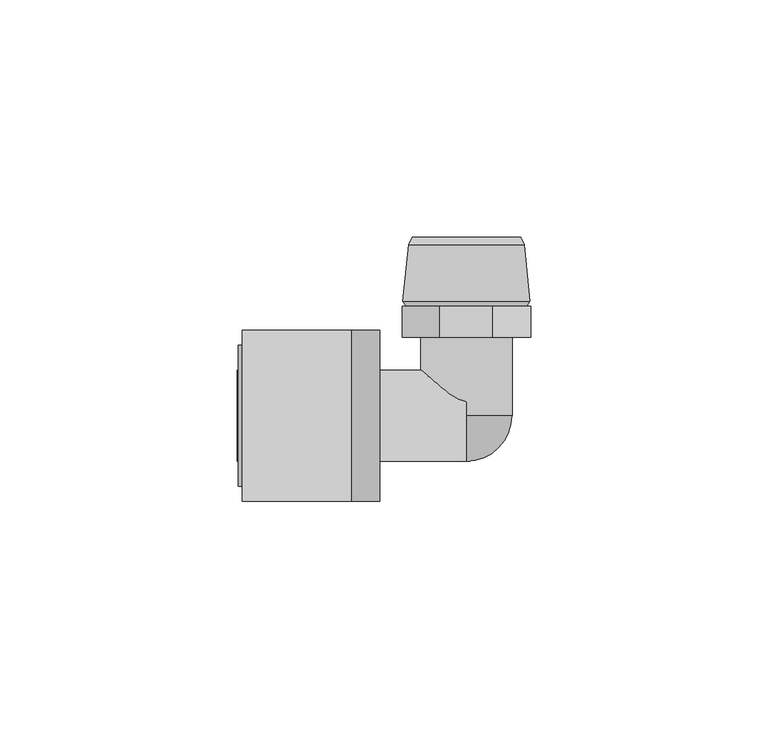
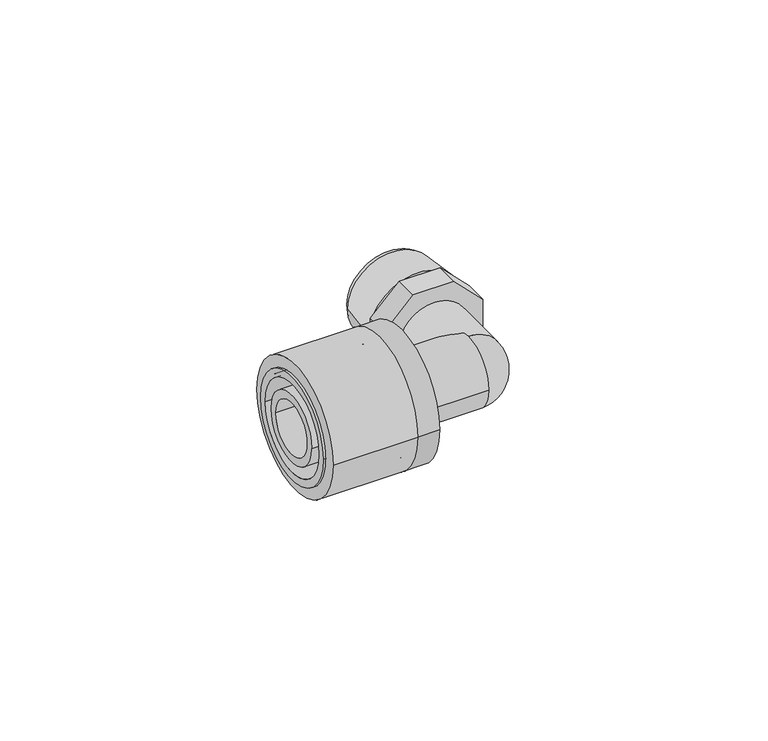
"""IFC4 building model written with IfcOpenShell, lengths in millimetres: pipe fitting geometry, FASTLOC_Elbow with male thread EX+ : FSL A internal AT."""

from ifc_helpers import new_model, si_unit, point, frame, origin, origin_2d, place, context, project, spatial, polyline, circle_curve, ellipse_curve, trimmed, segment, composite_curve, outline, extrude, source, transform, mapped, element, save
from ifc_brep_helpers import plane_surface, cylinder_surface, revolved_surface, advanced_brep


def pipe_fitting_cb24982a(model_context):
    return source(origin(), model_context, "Body", "SolidModel", [
        extrude(outline(composite_curve([segment(trimmed(circle_curve(origin_2d(), 18.0), [point((18.0, 0.0))], [point((-18.0, 0.0))], False, "CARTESIAN"), True, "CONTINUOUS"), segment(trimmed(circle_curve(origin_2d(), 18.0), [point((-18.0, 0.0))], [point((18.0, 0.0))], False, "CARTESIAN"), True, "CONTINUOUS")], self_intersect=False), holes=[composite_curve([segment(trimmed(circle_curve(origin_2d(), 13.5), [point((13.5, 0.0))], [point((-13.5, 0.0))], True, "CARTESIAN"), True, "CONTINUOUS"), segment(trimmed(circle_curve(origin_2d(), 13.5), [point((-13.5, 0.0))], [point((13.5, 0.0))], True, "CARTESIAN"), True, "CONTINUOUS")], self_intersect=False)]), frame((-47.2, 0.0, 0.0), z_axis=(1.0, 0.0, 0.0), x_axis=(0.0, 1.0, 0.0)), (0.0, 0.0, 1.0), 23.0),
        advanced_brep(
        [(-24.2, -18.0, 0.0), (-24.2, 18.0, 0.0), (-18.2, 18.0, 0.0), (-18.2, -18.0, 0.0), (-48.0, -14.85, 0.0), (-48.0, 14.85, 0.0), (-24.2, 14.85, 0.0), (-24.2, -14.85, 0.0), (-18.2, -12.65, 0.0), (-18.2, 12.65, 0.0), (-48.0, 12.65, 0.0), (-48.0, -12.65, 0.0)],
        [
            (0, 1, circle_curve(frame((-24.2, 0.0, 0.0), z_axis=(1.0, 0.0, 0.0), x_axis=(0.0, 1.0, 0.0)), 18.0)),
            (1, 2),
            (2, 3, circle_curve(frame((-18.2, 0.0, 0.0), z_axis=(-1.0, 0.0, 0.0), x_axis=(0.0, 1.0, 0.0)), 18.0)),
            (3, 0),
            (4, 5, circle_curve(frame((-48.0, 0.0, 0.0), z_axis=(1.0, 0.0, 0.0), x_axis=(0.0, 1.0, 0.0)), 14.85)),
            (5, 6),
            (6, 7, circle_curve(frame((-24.2, 0.0, 0.0), z_axis=(-1.0, 0.0, 0.0), x_axis=(0.0, 1.0, 0.0)), 14.85)),
            (7, 4),
            (8, 9, circle_curve(frame((-18.2, 0.0, 0.0), z_axis=(1.0, 0.0, 0.0), x_axis=(0.0, 1.0, 0.0)), 12.65)),
            (9, 10),
            (10, 11, circle_curve(frame((-48.0, 0.0, 0.0), z_axis=(-1.0, 0.0, 0.0), x_axis=(0.0, 1.0, 0.0)), 12.65)),
            (11, 8),
            (1, 0, circle_curve(frame((-24.2, 0.0, 0.0), z_axis=(1.0, 0.0, 0.0), x_axis=(0.0, -1.0, 0.0)), 18.0)),
            (3, 2, circle_curve(frame((-18.2, 0.0, 0.0), z_axis=(-1.0, 0.0, 0.0), x_axis=(0.0, -1.0, 0.0)), 18.0)),
            (6, 7, circle_curve(frame((-24.2, 0.0, 0.0), z_axis=(1.0, 0.0, 0.0), x_axis=(0.0, -1.0, 0.0)), 14.85)),
            (5, 4, circle_curve(frame((-48.0, 0.0, 0.0), z_axis=(1.0, 0.0, 0.0), x_axis=(0.0, -1.0, 0.0)), 14.85)),
            (10, 11, circle_curve(frame((-48.0, 0.0, 0.0), z_axis=(1.0, 0.0, 0.0), x_axis=(0.0, -1.0, 0.0)), 12.65)),
            (9, 8, circle_curve(frame((-18.2, 0.0, 0.0), z_axis=(1.0, 0.0, 0.0), x_axis=(0.0, -1.0, 0.0)), 12.65)),
        ],
        [
            cylinder_surface(frame((-18.2, 0.0, 0.0), z_axis=(-1.0, 0.0, 0.0), x_axis=(0.0, 1.0, 0.0)), 18.0),
            cylinder_surface(frame((-18.2, 0.0, 0.0), z_axis=(-1.0, 0.0, 0.0), x_axis=(0.0, 1.0, 0.0)), 14.85),
            revolved_surface(polyline([(-48.0, 12.65, 0.0), (-18.2, 12.65, 0.0)]), (-18.2, 0.0, 0.0), (-1.0, 0.0, 0.0)),
            cylinder_surface(frame((-18.2, 0.0, 0.0), z_axis=(-1.0, 0.0, 0.0), x_axis=(0.0, -1.0, 0.0)), 18.0),
            plane_surface(frame((-24.2, 0.0, 0.0), z_axis=(-1.0, 0.0, 0.0), x_axis=(0.0, -1.0, 0.0))),
            cylinder_surface(frame((-18.2, 0.0, 0.0), z_axis=(-1.0, 0.0, 0.0), x_axis=(0.0, -1.0, 0.0)), 14.85),
            plane_surface(frame((-48.0, 0.0, 0.0), z_axis=(-1.0, 0.0, 0.0), x_axis=(0.0, -1.0, 0.0))),
            revolved_surface(polyline([(-48.0, -12.65, 0.0), (-18.2, -12.65, 0.0)]), (-18.2, 0.0, 0.0), (-1.0, 0.0, 0.0)),
            plane_surface(frame((-18.2, 0.0, 0.0), z_axis=(1.0, 0.0, 0.0), x_axis=(0.0, -1.0, 0.0))),
        ],
        [
            (0, [[1, 2, 3, 4]]),
            (1, [[5, 6, 7, 8]]),
            (2, [[9, 10, 11, 12]]),
            (3, [[13, -4, 14, -2]]),
            (4, [[-13, -1], [15, -7]]),
            (5, [[16, -8, -15, -6]]),
            (6, [[-16, -5], [17, -11]]),
            (7, [[18, -12, -17, -10]]),
            (8, [[-14, -3], [-18, -9]]),
        ],
    ),
        advanced_brep(
        [(12.15, 36.0000007, 0.0), (-12.15, 36.0000007, 0.0), (-11.45, 37.5, 0.0), (11.45, 37.5, 0.0), (13.35, 24.0531902, 0.0), (-13.35, 24.0531902, 0.0), (12.7, 23.0, 0.0), (-12.7, 23.0, 0.0), (9.5, 24.4157803, 0.0), (-9.5, 24.4157803, 0.0), (-8.3967197, 23.0, 0.0), (8.3967197, 23.0, 0.0), (9.5, 37.5, 0.0), (-9.5, 37.5, 0.0)],
        [
            (0, 1, circle_curve(frame((0.0, 36.0000007, 0.0), z_axis=(0.0, 1.0, 0.0), x_axis=(-1.0, 0.0, 0.0)), 12.15)),
            (1, 2),
            (2, 3, circle_curve(frame((0.0, 37.5, 0.0), z_axis=(0.0, -1.0, 0.0), x_axis=(-1.0, 0.0, 0.0)), 11.45)),
            (3, 0),
            (4, 5, circle_curve(frame((0.0, 24.0531902, 0.0), z_axis=(0.0, 1.0, 0.0), x_axis=(-1.0, 0.0, 0.0)), 13.35)),
            (5, 1),
            (0, 4),
            (6, 7, circle_curve(frame((0.0, 23.0, 0.0), z_axis=(0.0, 1.0, 0.0), x_axis=(-1.0, 0.0, 0.0)), 12.7)),
            (7, 5),
            (4, 6),
            (8, 9, circle_curve(frame((0.0, 24.4157803, 0.0), z_axis=(0.0, 1.0, 0.0), x_axis=(-1.0, 0.0, 0.0)), 9.5)),
            (9, 10),
            (10, 11, circle_curve(frame((0.0, 23.0, 0.0), z_axis=(0.0, -1.0, 0.0), x_axis=(-1.0, 0.0, 0.0)), 8.3967197)),
            (11, 8),
            (12, 13, circle_curve(frame((0.0, 37.5, 0.0), z_axis=(0.0, 1.0, 0.0), x_axis=(-1.0, 0.0, 0.0)), 9.5)),
            (13, 9),
            (8, 12),
            (2, 3, circle_curve(frame((0.0, 37.5, 0.0), z_axis=(0.0, 1.0, 0.0), x_axis=(1.0, 0.0, 0.0)), 11.45)),
            (12, 13, circle_curve(frame((0.0, 37.5, 0.0), z_axis=(0.0, -1.0, 0.0), x_axis=(1.0, 0.0, 0.0)), 9.5)),
            (1, 0, circle_curve(frame((0.0, 36.0000007, 0.0), z_axis=(0.0, 1.0, 0.0), x_axis=(1.0, 0.0, 0.0)), 12.15)),
            (5, 4, circle_curve(frame((0.0, 24.0531902, 0.0), z_axis=(0.0, 1.0, 0.0), x_axis=(1.0, 0.0, 0.0)), 13.35)),
            (7, 6, circle_curve(frame((0.0, 23.0, 0.0), z_axis=(0.0, 1.0, 0.0), x_axis=(1.0, 0.0, 0.0)), 12.7)),
            (10, 11, circle_curve(frame((0.0, 23.0, 0.0), z_axis=(0.0, 1.0, 0.0), x_axis=(1.0, 0.0, 0.0)), 8.3967197)),
            (9, 8, circle_curve(frame((0.0, 24.4157803, 0.0), z_axis=(0.0, 1.0, 0.0), x_axis=(1.0, 0.0, 0.0)), 9.5)),
        ],
        [
            revolved_surface(polyline([(-11.45, 37.5, 0.0), (-12.15, 36.0000007, 0.0)]), (0.0, 16.5, 0.0), (0.0, -1.0, 0.0)),
            revolved_surface(polyline([(-12.15, 36.0000007, 0.0), (-13.35, 24.0531902, 0.0)]), (0.0, 16.5, 0.0), (0.0, -1.0, 0.0)),
            revolved_surface(polyline([(-13.35, 24.0531902, 0.0), (-12.7, 23.0, 0.0)]), (0.0, 16.5, 0.0), (0.0, -1.0, 0.0)),
            revolved_surface(polyline([(-8.3967197, 23.0, 0.0), (-9.5, 24.4157803, 0.0)]), (0.0, 16.5, 0.0), (0.0, -1.0, 0.0)),
            revolved_surface(polyline([(-9.5, 24.4157803, 0.0), (-9.5, 37.5, 0.0)]), (0.0, 16.5, 0.0), (0.0, -1.0, 0.0)),
            plane_surface(frame((0.0, 37.5, 0.0), z_axis=(0.0, 1.0, 0.0), x_axis=(1.0, 0.0, 0.0))),
            revolved_surface(polyline([(11.45, 37.5, 0.0), (12.15, 36.0000007, 0.0)]), (0.0, 16.5, 0.0), (0.0, -1.0, 0.0)),
            revolved_surface(polyline([(12.15, 36.0000007, 0.0), (13.35, 24.0531902, 0.0)]), (0.0, 16.5, 0.0), (0.0, -1.0, 0.0)),
            revolved_surface(polyline([(13.35, 24.0531902, 0.0), (12.7, 23.0, 0.0)]), (0.0, 16.5, 0.0), (0.0, -1.0, 0.0)),
            plane_surface(frame((0.0, 23.0, 0.0), z_axis=(0.0, -1.0, 0.0), x_axis=(1.0, 0.0, 0.0))),
            revolved_surface(polyline([(8.3967197, 23.0, 0.0), (9.5, 24.4157803, 0.0)]), (0.0, 16.5, 0.0), (0.0, -1.0, 0.0)),
            revolved_surface(polyline([(9.5, 24.4157803, 0.0), (9.5, 37.5, 0.0)]), (0.0, 16.5, 0.0), (0.0, -1.0, 0.0)),
        ],
        [
            (0, [[1, 2, 3, 4]]),
            (1, [[5, 6, -1, 7]]),
            (2, [[8, 9, -5, 10]]),
            (3, [[11, 12, 13, 14]]),
            (4, [[15, 16, -11, 17]]),
            (5, [[18, -3], [19, -15]]),
            (6, [[20, -4, -18, -2]]),
            (7, [[21, -7, -20, -6]]),
            (8, [[22, -10, -21, -9]]),
            (9, [[-22, -8], [23, -13]]),
            (10, [[24, -14, -23, -12]]),
            (11, [[-19, -17, -24, -16]]),
        ],
    ),
        advanced_brep(
        [(-24.2, 9.6, 0.0), (-24.2, -9.6, 0.0), (-48.2, -9.6, 0.0), (-48.2, 9.6, 0.0), (-21.4, 11.1, 0.0), (-21.4, -11.1, 0.0), (-24.2, -11.1, 0.0), (-24.2, 11.1, 0.0), (0.0, 9.6, 0.0), (0.0, -9.6, 0.0), (-21.4, -9.6, 0.0), (-21.4, 9.6, 0.0), (-48.2, 7.35, 0.0), (-48.2, -7.35, 0.0), (0.0, -7.35, 0.0), (0.0, 7.35, 0.0)],
        [
            (0, 1, circle_curve(frame((-24.2, 0.0, 0.0), z_axis=(-1.0, 0.0, 0.0), x_axis=(0.0, -1.0, 0.0)), 9.6)),
            (1, 2),
            (2, 3, circle_curve(frame((-48.2, 0.0, 0.0), z_axis=(1.0, 0.0, 0.0), x_axis=(0.0, -1.0, 0.0)), 9.6)),
            (3, 0),
            (4, 5, circle_curve(frame((-21.4, 0.0, 0.0), z_axis=(-1.0, 0.0, 0.0), x_axis=(0.0, -1.0, 0.0)), 11.1)),
            (5, 6),
            (6, 7, circle_curve(frame((-24.2, 0.0, 0.0), z_axis=(1.0, 0.0, 0.0), x_axis=(0.0, -1.0, 0.0)), 11.1)),
            (7, 4),
            (8, 9, circle_curve(frame((0.0, 0.0, 0.0), z_axis=(-1.0, 0.0, 0.0), x_axis=(0.0, -1.0, 0.0)), 9.6)),
            (9, 10),
            (10, 11, circle_curve(frame((-21.4, 0.0, 0.0), z_axis=(1.0, 0.0, 0.0), x_axis=(0.0, -1.0, 0.0)), 9.6)),
            (11, 8),
            (12, 13, circle_curve(frame((-48.2, 0.0, 0.0), z_axis=(-1.0, 0.0, 0.0), x_axis=(0.0, -1.0, 0.0)), 7.35)),
            (13, 14),
            (14, 15, circle_curve(frame((0.0, 0.0, 0.0), z_axis=(1.0, 0.0, 0.0), x_axis=(0.0, -1.0, 0.0)), 7.35)),
            (15, 12),
            (2, 3, circle_curve(frame((-48.2, 0.0, 0.0), z_axis=(-1.0, 0.0, 0.0), x_axis=(0.0, 1.0, 0.0)), 9.6)),
            (12, 13, circle_curve(frame((-48.2, 0.0, 0.0), z_axis=(1.0, 0.0, 0.0), x_axis=(0.0, 1.0, 0.0)), 7.35)),
            (1, 0, circle_curve(frame((-24.2, 0.0, 0.0), z_axis=(-1.0, 0.0, 0.0), x_axis=(0.0, 1.0, 0.0)), 9.6)),
            (6, 7, circle_curve(frame((-24.2, 0.0, 0.0), z_axis=(-1.0, 0.0, 0.0), x_axis=(0.0, 1.0, 0.0)), 11.1)),
            (5, 4, circle_curve(frame((-21.4, 0.0, 0.0), z_axis=(-1.0, 0.0, 0.0), x_axis=(0.0, 1.0, 0.0)), 11.1)),
            (10, 11, circle_curve(frame((-21.4, 0.0, 0.0), z_axis=(-1.0, 0.0, 0.0), x_axis=(0.0, 1.0, 0.0)), 9.6)),
            (9, 8, circle_curve(frame((0.0, 0.0, 0.0), z_axis=(-1.0, 0.0, 0.0), x_axis=(0.0, 1.0, 0.0)), 9.6)),
            (14, 15, circle_curve(frame((0.0, 0.0, 0.0), z_axis=(-1.0, 0.0, 0.0), x_axis=(0.0, 1.0, 0.0)), 7.35)),
        ],
        [
            cylinder_surface(frame((0.0, 0.0, 0.0), z_axis=(1.0, 0.0, 0.0), x_axis=(0.0, -1.0, 0.0)), 9.6),
            cylinder_surface(frame((0.0, 0.0, 0.0), z_axis=(1.0, 0.0, 0.0), x_axis=(0.0, -1.0, 0.0)), 11.1),
            revolved_surface(polyline([(0.0, -7.35, 0.0), (-48.2, -7.35, 0.0)]), (0.0, 0.0, 0.0), (1.0, 0.0, 0.0)),
            plane_surface(frame((-48.2, 0.0, 0.0), z_axis=(-1.0, 0.0, 0.0), x_axis=(0.0, 1.0, 0.0))),
            cylinder_surface(frame((0.0, 0.0, 0.0), z_axis=(1.0, 0.0, 0.0), x_axis=(0.0, 1.0, 0.0)), 9.6),
            plane_surface(frame((-24.2, 0.0, 0.0), z_axis=(-1.0, 0.0, 0.0), x_axis=(0.0, 1.0, 0.0))),
            cylinder_surface(frame((0.0, 0.0, 0.0), z_axis=(1.0, 0.0, 0.0), x_axis=(0.0, 1.0, 0.0)), 11.1),
            plane_surface(frame((-21.4, 0.0, 0.0), z_axis=(1.0, 0.0, 0.0), x_axis=(0.0, 1.0, 0.0))),
            plane_surface(frame((0.0, 0.0, 0.0), z_axis=(1.0, 0.0, 0.0), x_axis=(0.0, 1.0, 0.0))),
            revolved_surface(polyline([(0.0, 7.35, 0.0), (-48.2, 7.35, 0.0)]), (0.0, 0.0, 0.0), (1.0, 0.0, 0.0)),
        ],
        [
            (0, [[1, 2, 3, 4]]),
            (1, [[5, 6, 7, 8]]),
            (0, [[9, 10, 11, 12]]),
            (2, [[13, 14, 15, 16]]),
            (3, [[17, -3], [18, -13]]),
            (4, [[19, -4, -17, -2]]),
            (5, [[20, -7], [-19, -1]]),
            (6, [[21, -8, -20, -6]]),
            (7, [[-21, -5], [22, -11]]),
            (4, [[23, -12, -22, -10]]),
            (8, [[-23, -9], [24, -15]]),
            (9, [[-18, -16, -24, -14]]),
        ],
    ),
        advanced_brep(
        [(0.0, -9.6, 0.0), (0.0, 0.0, 9.6), (0.0, 0.0, 7.35), (0.0, -7.35, 0.0), (0.0, 0.0, -7.35), (0.0, 0.0, -9.6)],
        [
            (0, 1, circle_curve(frame((0.0, 0.0, 0.0), z_axis=(-1.0, 0.0, 0.0), x_axis=(0.0, 0.0, 1.0)), 9.6)),
            (1, 2),
            (2, 3, circle_curve(frame((0.0, 0.0, 0.0), z_axis=(1.0, 0.0, 0.0), x_axis=(0.0, 0.0, 1.0)), 7.35)),
            (3, 0),
            (3, 4, circle_curve(frame((0.0, 0.0, 0.0), z_axis=(1.0, 0.0, 0.0), x_axis=(0.0, 0.0, -1.0)), 7.35)),
            (4, 5),
            (5, 0, circle_curve(frame((0.0, 0.0, 0.0), z_axis=(-1.0, 0.0, 0.0), x_axis=(0.0, 0.0, -1.0)), 9.6)),
            (5, 1, circle_curve(frame((0.0, 0.0, 0.0), z_axis=(0.0, -1.0, 0.0), x_axis=(0.0, 0.0, 1.0)), 9.6)),
            (4, 2, circle_curve(frame((0.0, 0.0, 0.0), z_axis=(0.0, -1.0, 0.0), x_axis=(0.0, 0.0, 1.0)), 7.35)),
        ],
        [
            plane_surface(frame((0.0, 0.0, 0.0), z_axis=(-1.0, 0.0, 0.0), x_axis=(0.0, 0.0, 1.0))),
            plane_surface(frame((0.0, 0.0, 0.0), z_axis=(-1.0, 0.0, 0.0), x_axis=(0.0, 0.0, -1.0))),
            revolved_surface(trimmed(ellipse_curve(frame((0.0, 0.0, 0.0), z_axis=(-1.0, 0.0, 0.0), x_axis=(0.0, 0.0, 1.0)), 9.6, 9.6), [point((0.0, -9.6, 0.0))], [point((0.0, 0.0, 9.6))], True, "CARTESIAN"), (0.0, 0.0, 0.0), (0.0, 1.0, 0.0)),
            plane_surface(frame((0.0, 0.0, 0.0), z_axis=(0.0, 1.0, 0.0), x_axis=(0.0, 0.0, 1.0))),
            revolved_surface(trimmed(ellipse_curve(frame((0.0, 0.0, 0.0), z_axis=(1.0, 0.0, 0.0), x_axis=(0.0, 0.0, 1.0)), 7.35, 7.35), [point((0.0, 0.0, 7.35))], [point((0.0, -7.35, 0.0))], True, "CARTESIAN"), (0.0, 0.0, 0.0), (0.0, 1.0, 0.0)),
        ],
        [
            (0, [[1, 2, 3, 4]]),
            (1, [[5, 6, 7, -4]]),
            (2, [[8, -1, -7]]),
            (3, [[9, -2, -8, -6]]),
            (4, [[-3, -9, -5]]),
        ],
    ),
        extrude(outline(polyline([(-13.5, 5.5918831), (-5.5918831, 13.5), (5.5918831, 13.5), (13.5, 5.5918831), (13.5, -5.5918831), (5.5918831, -13.5), (-5.5918831, -13.5), (-13.5, -5.5918831), (-13.5, 5.5918831)])), frame((0.0, 16.5, 0.0), z_axis=(0.0, 1.0, 0.0), x_axis=(0.0, 0.0, 1.0)), (0.0, 0.0, 1.0), 6.5),
        extrude(outline(composite_curve([segment(trimmed(circle_curve(origin_2d(), 9.6), [point((0.0, -9.6))], [point((0.0, 9.6))], False, "CARTESIAN"), True, "CONTINUOUS"), segment(trimmed(circle_curve(origin_2d(), 9.6), [point((0.0, 9.6))], [point((0.0, -9.6))], False, "CARTESIAN"), True, "CONTINUOUS")], self_intersect=False), holes=[composite_curve([segment(trimmed(circle_curve(origin_2d(), 7.35), [point((0.0, -7.35))], [point((0.0, 7.35))], True, "CARTESIAN"), True, "CONTINUOUS"), segment(trimmed(circle_curve(origin_2d(), 7.35), [point((0.0, 7.35))], [point((0.0, -7.35))], True, "CARTESIAN"), True, "CONTINUOUS")], self_intersect=False)]), frame((0.0, 0.0, 0.0), z_axis=(0.0, 1.0, 0.0), x_axis=(0.0, 0.0, 1.0)), (0.0, 0.0, 1.0), 16.5),
    ])


if __name__ == "__main__":
    model = new_model("IFC4")
    model_context = context("Model", 3, world=origin())
    ifc_project = project(units=[si_unit("LENGTHUNIT", "METRE", prefix="MILLI")], contexts=[model_context])
    site = spatial("IfcSite", under=ifc_project)
    building = spatial("IfcBuilding", under=site)
    placement = place(None, origin())
    pipe_fitting_shape = pipe_fitting_cb24982a(model_context)
    element("IfcPipeFitting", 1, ObjectType="FASTLOC_Elbow with male thread EX+ : FSL A internal AT", at=placement, inside=building, context=model_context, shape_type="MappedRepresentation", body=[
        mapped(pipe_fitting_shape, transform((0.0, 0.0, 0.0), x_axis=(1.0, 0.0, 0.0), y_axis=(0.0, 1.0, 0.0), z_axis=(0.0, 0.0, 1.0))),
    ])
    save(model, "model.ifc")
